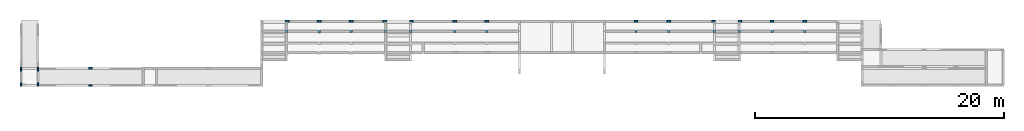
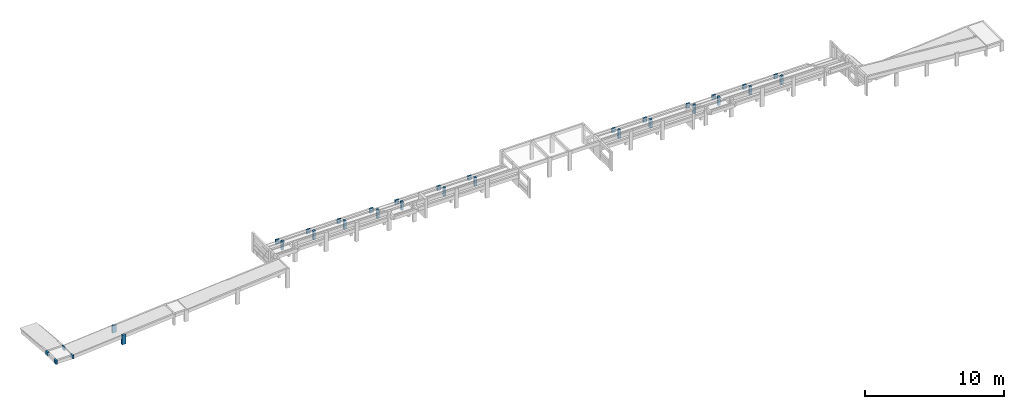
# One storey, part 2 of 9: 32 columns.
"""IFC4 building model written with IfcOpenShell, lengths in centimetres."""

from ifc_helpers import new_model, si_unit, derived_unit, frame, origin_with_axes, origin_2d_with_axis, place, context, project, spatial, rectangle, extrude, material, element, save


model = new_model("IFC4")

# Units and contexts
model_context = context("Model", 3, precision=1e-05, world=origin_with_axes(), identifier="Body")
ifc_project = project(units=[si_unit("LENGTHUNIT", "METRE", prefix="CENTI"), si_unit("VOLUMEUNIT", "CUBIC_METRE"), si_unit("AREAUNIT", "SQUARE_METRE"), si_unit("POWERUNIT", "WATT"), si_unit("LUMINOUSFLUXUNIT", "LUMEN"), si_unit("ELECTRICCURRENTUNIT", "AMPERE"), si_unit("PRESSUREUNIT", "PASCAL", prefix="KILO"), si_unit("MASSUNIT", "GRAM", prefix="KILO"), si_unit("PLANEANGLEUNIT", "RADIAN"), derived_unit("VOLUMETRICFLOWRATEUNIT", [(si_unit("LENGTHUNIT", "METRE"), 3), (si_unit("TIMEUNIT", "SECOND"), -1)])], contexts=[model_context])

# Site, building, storey
site_placement = place(None, origin_with_axes())
site = spatial("IfcSite", under=ifc_project, at=site_placement)
building_placement = place(site_placement, frame((0.0, 0.0, -170.0)))
building = spatial("IfcBuilding", under=site, at=building_placement)
placement = place(building_placement, origin_with_axes())
storey_placement = place(placement, frame((0.0, 0.0, 170.0), z_axis=(0.0, 0.0, 1.0), x_axis=(1.0, 0.0, 0.0)))
storey = spatial("IfcBuildingStorey", under=building, at=storey_placement, Name="Arquibancada", CompositionType="ELEMENT", Elevation=0.0)

# Columns
ifc_material = material(Name="Concreto")
column_1_placement = place(storey_placement, frame((1810.24, 385.0, -132.0), z_axis=(0.0, 0.0, 1.0), x_axis=(1.0, 0.0, 0.0)))
element("IfcColumn", 1, at=column_1_placement, inside=storey, material=ifc_material, Name="P10", context=model_context, shape_type="SolidModel", body=[
    extrude(rectangle(XDim=14.0, YDim=30.0, at=origin_2d_with_axis()), frame((0.0, 0.0, 0.0), z_axis=(0.0, 0.0, 1.0), x_axis=(0.0, -1.0, 0.0)), (0.0, 0.0, -1.0), 38.0),
])
column_2_placement = place(storey_placement, frame((-1365.75, -130.0, -104.0), z_axis=(0.0, 0.0, 1.0), x_axis=(1.0, 0.0, 0.0)))
element("IfcColumn", 2, at=column_2_placement, inside=storey, material=ifc_material, Name="P106", context=model_context, shape_type="SolidModel", body=[
    extrude(rectangle(XDim=14.0, YDim=30.0, at=origin_2d_with_axis()), frame((0.0, 0.0, 0.0), z_axis=(0.0, 0.0, 1.0), x_axis=(0.0, -1.0, 0.0)), (0.0, 0.0, -1.0), 85.0),
])
for number, where, z_axis, x_axis, name in (
    (3, (3008.01, 385.0, -132.0), (0.0, 0.0, 1.0), (1.0, 0.0, 0.0), "P15"),
    (4, (3269.95, 385.0, -132.0), (0.0, 0.0, 1.0), (1.0, 0.0, 0.0), "P16"),
    (5, (3629.09, 385.0, -132.0), (0.0, 0.0, 1.0), (1.0, 0.0, 0.0), "P17"),
    (6, (3842.09, 385.0, -132.0), (0.0, 0.0, 1.0), (1.0, 0.0, 0.0), "P18"),
    (7, (4098.54, 385.0, -132.0), (0.0, 0.0, 1.0), (1.0, 0.0, 0.0), "P19"),
    (8, (4360.17, 385.0, -132.0), (0.0, 0.0, 1.0), (1.0, 0.0, 0.0), "P20"),
):
    element("IfcColumn", number, at=place(storey_placement, frame(where, z_axis=z_axis, x_axis=x_axis)), inside=storey, material=ifc_material, Name=name, context=model_context, shape_type="SolidModel", body=[
        extrude(rectangle(XDim=14.0, YDim=30.0, at=origin_2d_with_axis()), frame((0.0, 0.0, 0.0), z_axis=(0.0, 0.0, 1.0), x_axis=(0.0, -1.0, 0.0)), (0.0, 0.0, -1.0), 38.0),
    ])
column_3_placement = place(storey_placement, frame((206.0, 302.5, -94.0), z_axis=(0.0, 0.0, 1.0), x_axis=(1.0, 0.0, 0.0)))
element("IfcColumn", 9, at=column_3_placement, inside=storey, material=ifc_material, Name="P24", context=model_context, shape_type="SolidModel", body=[
    extrude(rectangle(XDim=19.0, YDim=19.0, at=origin_2d_with_axis()), origin_with_axes(), (0.0, 0.0, -1.0), 76.0),
])
column_4_placement = place(storey_placement, frame((467.82, 302.0, -94.0), z_axis=(0.0, 0.0, 1.0), x_axis=(1.0, 0.0, 0.0)))
element("IfcColumn", 10, at=column_4_placement, inside=storey, material=ifc_material, Name="P25", context=model_context, shape_type="SolidModel", body=[
    extrude(rectangle(XDim=20.0, YDim=20.0, at=origin_2d_with_axis()), frame((0.0, 0.0, 0.0), z_axis=(0.0, 0.0, 1.0), x_axis=(0.0, -1.0, 0.0)), (0.0, 0.0, -1.0), 76.0),
])
for number, where, z_axis, x_axis, name in (
    (11, (724.14, 302.5, -94.0), (0.0, 0.0, 1.0), (1.0, 0.0, 0.0), "P26"),
    (12, (999.03, 302.5, -94.0), (0.0, 0.0, 1.0), (1.0, 0.0, 0.0), "P27"),
    (13, (1201.03, 302.5, -94.0), (0.0, 0.0, 1.0), (1.0, 0.0, 0.0), "P28"),
    (14, (1553.92, 302.5, -94.0), (0.0, 0.0, 1.0), (1.0, 0.0, 0.0), "P29"),
    (15, (1810.24, 302.5, -94.0), (0.0, 0.0, 1.0), (1.0, 0.0, 0.0), "P30"),
    (16, (3008.01, 302.5, -94.0), (0.0, 0.0, 1.0), (1.0, 0.0, 0.0), "P31"),
    (17, (3269.95, 302.5, -94.0), (0.0, 0.0, 1.0), (1.0, 0.0, 0.0), "P32"),
    (18, (3634.59, 302.5, -94.0), (0.0, 0.0, 1.0), (1.0, 0.0, 0.0), "P33"),
    (19, (3836.59, 302.5, -94.0), (0.0, 0.0, 1.0), (1.0, 0.0, 0.0), "P34"),
    (20, (4098.54, 302.5, -94.0), (0.0, 0.0, 1.0), (1.0, 0.0, 0.0), "P35"),
    (21, (4360.17, 302.5, -94.0), (0.0, 0.0, 1.0), (1.0, 0.0, 0.0), "P36"),
):
    element("IfcColumn", number, at=place(storey_placement, frame(where, z_axis=z_axis, x_axis=x_axis)), inside=storey, material=ifc_material, Name=name, context=model_context, shape_type="SolidModel", body=[
        extrude(rectangle(XDim=19.0, YDim=19.0, at=origin_2d_with_axis()), frame((0.0, 0.0, 0.0), z_axis=(0.0, 0.0, 1.0), x_axis=(0.0, -1.0, 0.0)), (0.0, 0.0, -1.0), 76.0),
    ])
for number, where, z_axis, x_axis, name in (
    (22, (211.5, 385.0, -132.0), (0.0, 0.0, 1.0), (1.0, 0.0, 0.0), "P4"),
    (23, (467.82, 385.0, -132.0), (0.0, 0.0, 1.0), (1.0, 0.0, 0.0), "P5"),
    (24, (724.14, 385.0, -132.0), (0.0, 0.0, 1.0), (1.0, 0.0, 0.0), "P6"),
    (25, (993.53, 385.0, -132.0), (0.0, 0.0, 1.0), (1.0, 0.0, 0.0), "P7"),
):
    element("IfcColumn", number, at=place(storey_placement, frame(where, z_axis=z_axis, x_axis=x_axis)), inside=storey, material=ifc_material, Name=name, context=model_context, shape_type="SolidModel", body=[
        extrude(rectangle(XDim=14.0, YDim=30.0, at=origin_2d_with_axis()), frame((0.0, 0.0, 0.0), z_axis=(0.0, 0.0, 1.0), x_axis=(0.0, -1.0, 0.0)), (0.0, 0.0, -1.0), 38.0),
    ])
for number, where, z_axis, x_axis, name in (
    (26, (-1924.5, -1.0, -138.0), (0.0, 0.0, 1.0), (1.0, 0.0, 0.0), "P78"),
    (27, (-1787.5, -1.0, -138.0), (0.0, 0.0, 1.0), (1.0, 0.0, 0.0), "P79"),
):
    element("IfcColumn", number, at=place(storey_placement, frame(where, z_axis=z_axis, x_axis=x_axis)), inside=storey, material=ifc_material, Name=name, context=model_context, shape_type="SolidModel", body=[
        extrude(rectangle(XDim=14.0, YDim=30.0, at=origin_2d_with_axis()), origin_with_axes(), (0.0, 0.0, -1.0), 32.0),
    ])
column_5_placement = place(storey_placement, frame((1206.53, 385.0, -132.0), z_axis=(0.0, 0.0, 1.0), x_axis=(1.0, 0.0, 0.0)))
element("IfcColumn", 28, at=column_5_placement, inside=storey, material=ifc_material, Name="P8", context=model_context, shape_type="SolidModel", body=[
    extrude(rectangle(XDim=14.0, YDim=30.0, at=origin_2d_with_axis()), frame((0.0, 0.0, 0.0), z_axis=(0.0, 0.0, 1.0), x_axis=(0.0, -1.0, 0.0)), (0.0, 0.0, -1.0), 38.0),
])
column_6_placement = place(storey_placement, frame((-1365.5, 7.0, -104.0), z_axis=(0.0, 0.0, 1.0), x_axis=(1.0, 0.0, 0.0)))
element("IfcColumn", 29, at=column_6_placement, inside=storey, material=ifc_material, Name="P80", context=model_context, shape_type="SolidModel", body=[
    extrude(rectangle(XDim=14.0, YDim=30.0, at=origin_2d_with_axis()), frame((0.0, 0.0, 0.0), z_axis=(0.0, 0.0, 1.0), x_axis=(0.0, -1.0, 0.0)), (0.0, 0.0, -1.0), 66.0),
])
column_7_placement = place(storey_placement, frame((1553.92, 385.0, -132.0), z_axis=(0.0, 0.0, 1.0), x_axis=(1.0, 0.0, 0.0)))
element("IfcColumn", 30, at=column_7_placement, inside=storey, material=ifc_material, Name="P9", context=model_context, shape_type="SolidModel", body=[
    extrude(rectangle(XDim=14.0, YDim=30.0, at=origin_2d_with_axis()), frame((0.0, 0.0, 0.0), z_axis=(0.0, 0.0, 1.0), x_axis=(0.0, -1.0, 0.0)), (0.0, 0.0, -1.0), 38.0),
])
column_8_placement = place(storey_placement, frame((-1924.5, -122.0, -138.0), z_axis=(0.0, 0.0, 1.0), x_axis=(1.0, 0.0, 0.0)))
element("IfcColumn", 31, at=column_8_placement, inside=storey, material=ifc_material, Name="P93", context=model_context, shape_type="SolidModel", body=[
    extrude(rectangle(XDim=14.0, YDim=30.0, at=origin_2d_with_axis()), origin_with_axes(), (0.0, 0.0, -1.0), 32.0),
])
column_9_placement = place(storey_placement, frame((-1787.5, -122.0, -138.0), z_axis=(0.0, 0.0, 1.0), x_axis=(1.0, 0.0, 0.0)))
element("IfcColumn", 32, at=column_9_placement, inside=storey, material=ifc_material, Name="P94", context=model_context, shape_type="SolidModel", body=[
    extrude(rectangle(XDim=14.0, YDim=30.0, at=origin_2d_with_axis()), frame((0.0, 0.0, 0.0), z_axis=(0.0, 0.0, 1.0), x_axis=(-1.0, 0.0, 0.0)), (0.0, 0.0, -1.0), 32.0),
])

save(model, "model.ifc")
